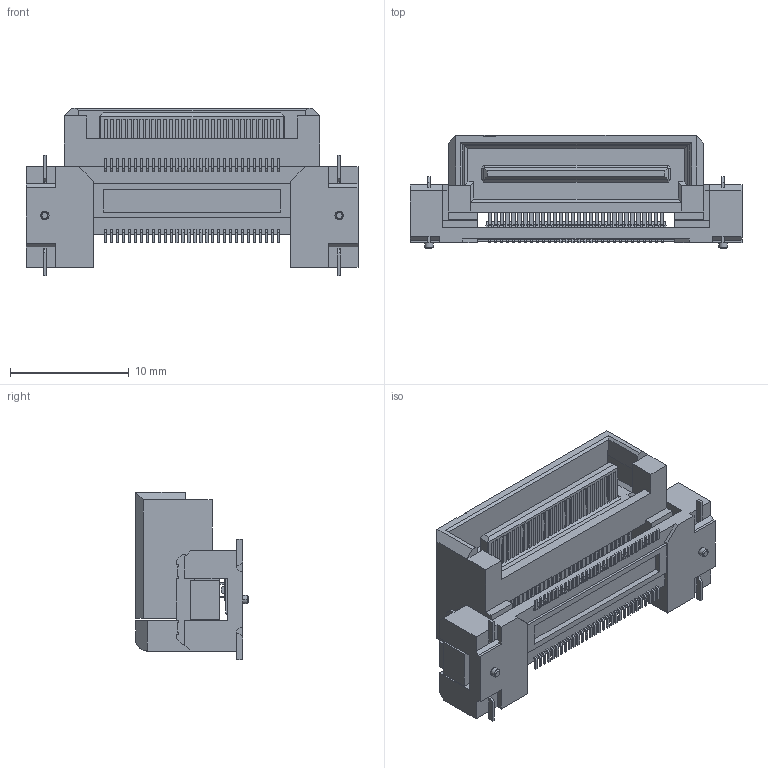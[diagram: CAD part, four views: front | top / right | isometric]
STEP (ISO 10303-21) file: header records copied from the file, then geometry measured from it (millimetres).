
FILE_DESCRIPTION(('Creo Elements/Direct Modeling STEP Export'),'2;1');
FILE_NAME('DT01-060L.stp','2018-11-12T16:50:52',(''),(''),'Creo Elements/Direct Modeling STEP processor for AP214 (Solid Model)','Creo Elements/Direct Modeling 19.0F 14-Feb-2017 (C) Parametric Technology GmbH','');
FILE_SCHEMA(('AUTOMOTIVE_DESIGN { 1 0 10303 214 1 1 1 1 }'));
Products named in the file (2): DT01-060L_model
Assembly tree (1 placements, depth 2):
  DT01-060L_model
    DT01-060L_model
Bounding box: 27.92 x 9.5 x 14.09 mm (x, y, z)
Volume: 1132.2 mm3; surface area: 2422.2 mm2
Topology: 1 solids, 1 shells, 2923 faces, 8254 edges, 5368 vertices
Faces by surface type: plane 2365, cylinder 554, cone 4
Entity records: 90296 total; most frequent: ORIENTED_EDGE 16508, CARTESIAN_POINT 15841, DIRECTION 14253, EDGE_CURVE 8254, VECTOR 6693, LINE 6693, VERTEX_POINT 5368, AXIS2_PLACEMENT_3D 3780
